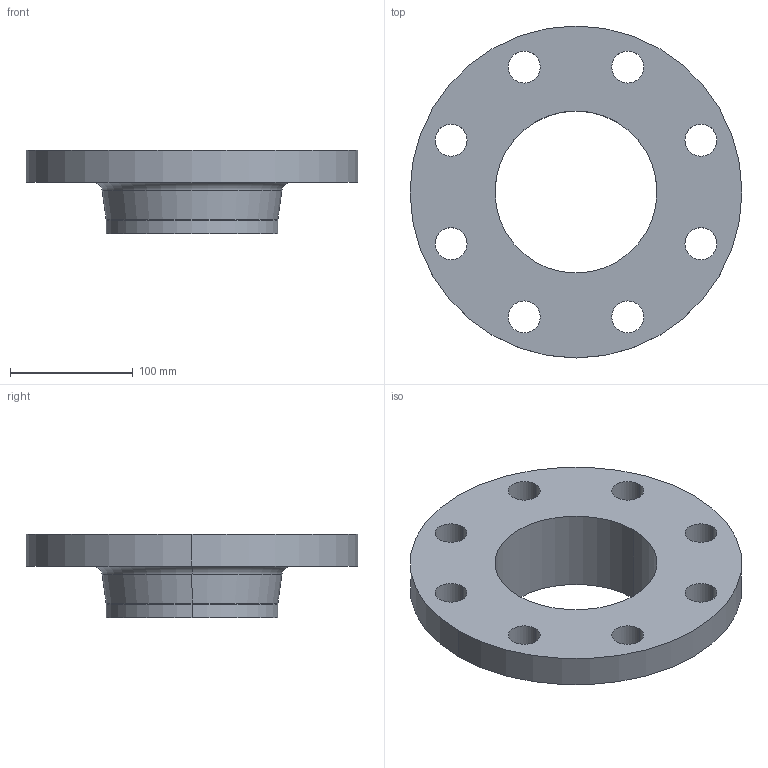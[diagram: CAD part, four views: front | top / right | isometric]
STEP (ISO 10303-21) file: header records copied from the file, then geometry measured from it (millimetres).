
FILE_DESCRIPTION (( 'STEP AP214' ), '1' );
FILE_NAME ('PN40 DN125 Type 11 - Type A Face.STEP', '2019-01-02T19:25:35', ( '' ), ( '' ), 'SwSTEP 2.0', 'SolidWorks 2019', '' );
FILE_SCHEMA (( 'AUTOMOTIVE_DESIGN' ));
Length unit declared in the file: millimetre
Products named in the file (1): PN40 DN125 Type 11 - Type A Face
Bounding box: 270 x 270 x 68 mm (x, y, z)
Volume: 1128832 mm3; surface area: 161894.4 mm2
Topology: 1 solids, 1 shells, 31 faces, 78 edges, 50 vertices
Faces by surface type: cylinder 22, torus 4, plane 3, cone 2
Entity records: 1028 total; most frequent: DIRECTION 196, CARTESIAN_POINT 160, ORIENTED_EDGE 156, AXIS2_PLACEMENT_3D 86, EDGE_CURVE 78, CIRCLE 54, EDGE_LOOP 50, VERTEX_POINT 50
